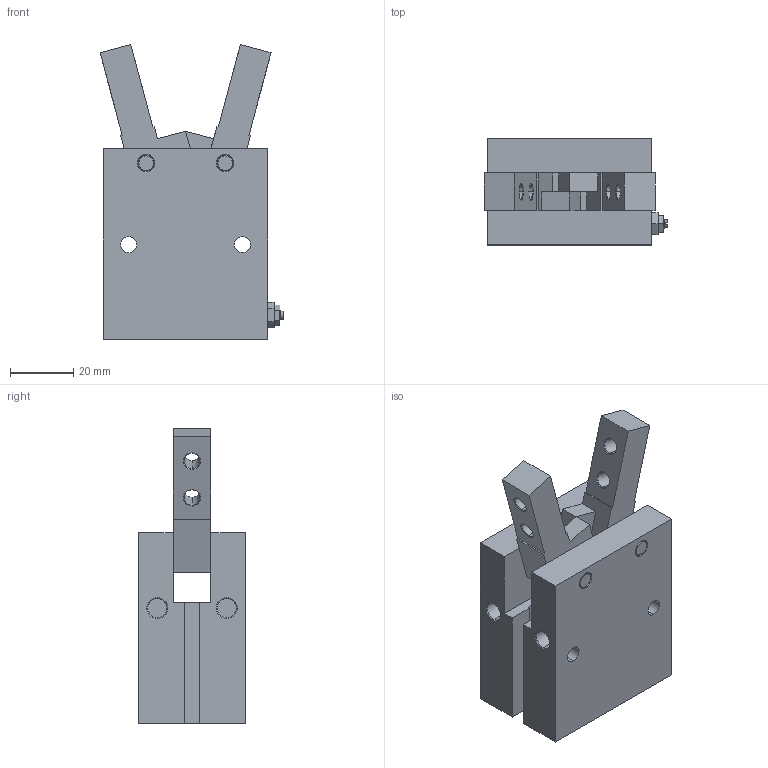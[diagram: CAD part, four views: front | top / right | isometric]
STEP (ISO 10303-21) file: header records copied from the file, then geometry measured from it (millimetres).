
FILE_DESCRIPTION (( 'STEP AP203' ), '1' );
FILE_NAME ('CHC2-25D.STEP', '2010-11-26T12:53:27', ( '.' ), ( '' ), 'SwSTEP 2.0', 'SolidWorks 2009', '' );
FILE_SCHEMA (( 'CONFIG_CONTROL_DESIGN' ));
Length unit declared in the file: millimetre
Products named in the file (3): 1_25D; 2_25; CHC2-25D
Assembly tree (3 placements, depth 2):
  CHC2-25D
    2_25  x2
    1_25D
Bounding box: 58.14 x 33.6 x 93.32 mm (x, y, z)
Volume: 95365 mm3; surface area: 26090.1 mm2
Topology: 3 solids, 3 shells, 192 faces, 470 edges, 296 vertices
Faces by surface type: plane 88, cylinder 54, cone 50
Entity records: 5020 total; most frequent: DIRECTION 847, CARTESIAN_POINT 822, ORIENTED_EDGE 778, EDGE_CURVE 389, AXIS2_PLACEMENT_3D 303, VERTEX_POINT 246, VECTOR 241, LINE 241
